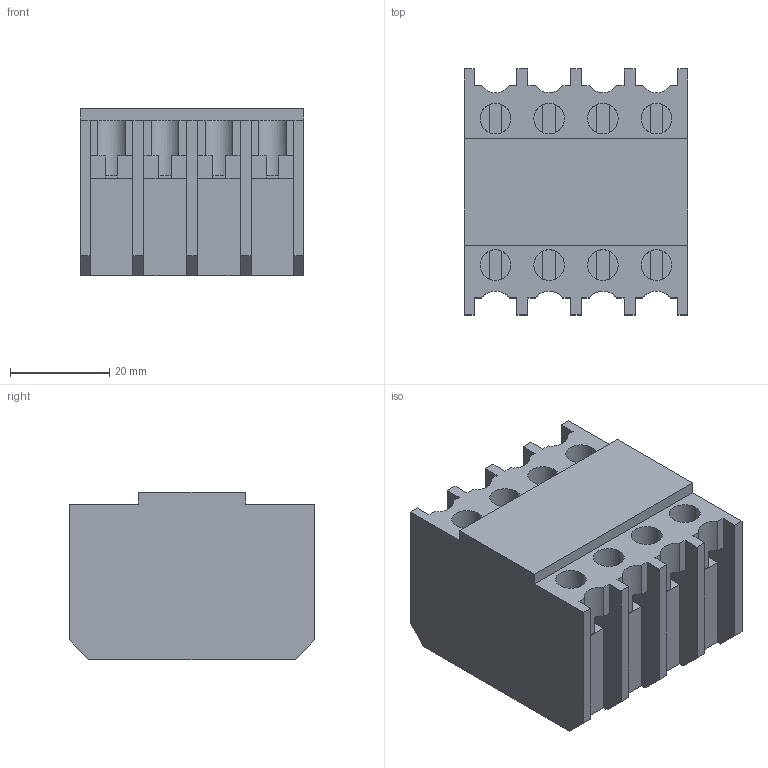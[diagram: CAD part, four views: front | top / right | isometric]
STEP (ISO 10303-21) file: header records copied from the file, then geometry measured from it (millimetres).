
FILE_DESCRIPTION((''),'2;1');
FILE_NAME('HKT.stp','2009-07-15T09:26:08',(''),(''),'Mechanical Desktop 2008','Mechanical Desktop 2008',', , ');
FILE_SCHEMA(('CONFIG_CONTROL_DESIGN'));
Length unit declared in the file: millimetre
Products named in the file (2): HKTA; HKT
Assembly tree (1 placements, depth 2):
  HKTA
    HKT
Bounding box: 45 x 49.5 x 33.7 mm (x, y, z)
Volume: 57828.7 mm3; surface area: 15463.4 mm2
Topology: 1 solids, 1 shells, 172 faces, 582 edges, 388 vertices
Faces by surface type: plane 148, cylinder 24
Entity records: 6455 total; most frequent: ORIENTED_EDGE 1164, CARTESIAN_POINT 1144, DIRECTION 1026, EDGE_CURVE 582, VECTOR 486, LINE 486, VERTEX_POINT 388, AXIS2_PLACEMENT_3D 270
